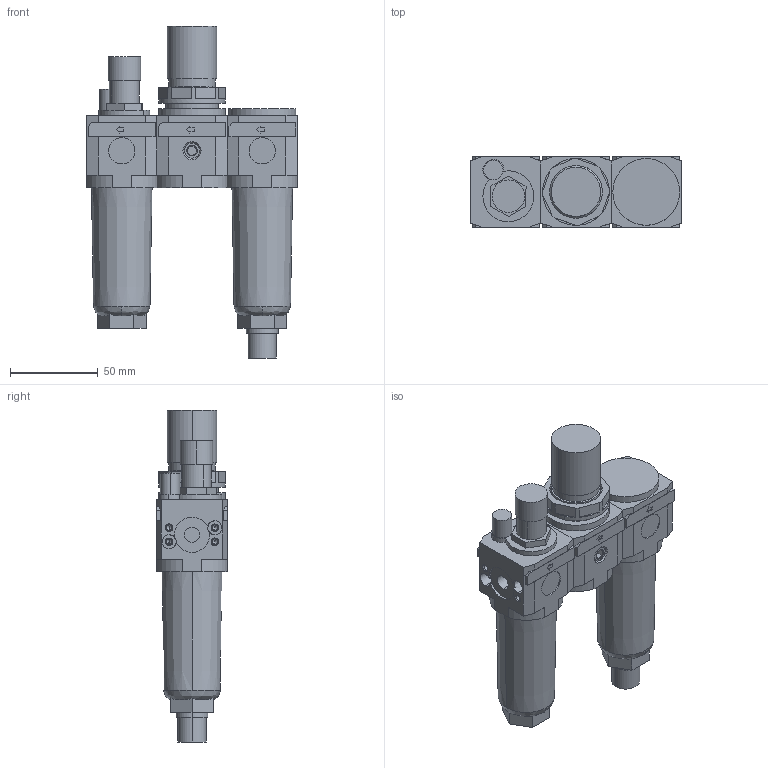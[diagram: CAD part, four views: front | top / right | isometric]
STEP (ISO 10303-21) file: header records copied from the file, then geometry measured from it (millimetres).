
FILE_DESCRIPTION((''),'2;1');
FILE_NAME('I:\DOC-EDP\Lib-3d\FRL\17107A_.stp','2003-06-16T14:49:46',('maffial1'),(''),'Autodesk Inventor 7','Autodesk Inventor 7','');
FILE_SCHEMA(('AUTOMOTIVE_DESIGN { 1 0 10303 214 1 1 1 1 }'));
Length unit declared in the file: millimetre
Products named in the file (7): 17107A_; 17101A_; 17103A; 17102A_; 17102A_(1); RS_1701_12; RK_1701_020
Assembly tree (6 placements, depth 3):
  17107A_
    17101A_
    17103A
    17102A_
      17102A_(1)
      RS_1701_12
      RK_1701_020
Bounding box: 120 x 40 x 189 mm (x, y, z)
Volume: 364000.2 mm3; surface area: 71815.6 mm2
Topology: 5 solids, 11 shells, 513 faces, 1261 edges, 795 vertices
Faces by surface type: plane 185, bspline 170, cylinder 102, cone 52, torus 4
Entity records: 16292 total; most frequent: CARTESIAN_POINT 4476, ORIENTED_EDGE 2450, DIRECTION 2304, EDGE_CURVE 1225, VERTEX_POINT 795, VECTOR 786, LINE 786, AXIS2_PLACEMENT_3D 759
